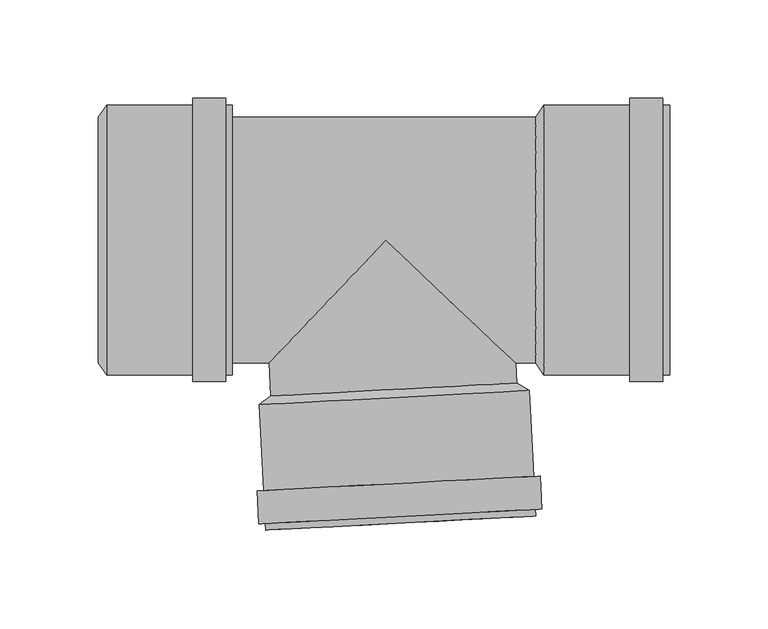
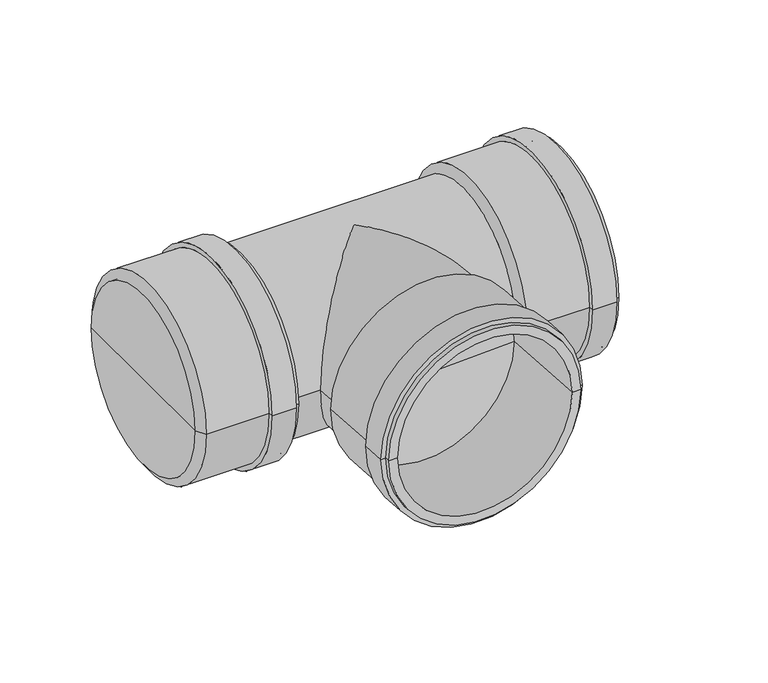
"""IFC4 building model written with IfcOpenShell, lengths in millimetres: pipe fitting geometry, pf_KGEA : pf_KGEA."""

from ifc_helpers import new_model, si_unit, frame, origin, place, context, project, spatial, polyline, circle_curve, ellipse_curve, source, transform, mapped, element, save
from ifc_brep_helpers import plane_surface, cylinder_surface, revolved_surface, advanced_brep


def pipe_fitting_a9f88fd3(model_context):
    return source(origin(), model_context, "Body", "AdvancedBrep", [
        advanced_brep(
        [(-58.4315797, -79.2667049, 0.0), (66.3971122, -72.7247103, 0.0), (72.7033298, -76.4998421, 0.0), (-64.3086424, -83.6803353, 0.0), (3.9827663, -75.9957076, 0.0), (-60.9643748, -147.4927626, 0.0), (76.0475974, -140.3122694, 0.0), (69.9559572, -140.6315187, 0.0), (-54.8727346, -147.1735132, 0.0), (-61.142317, -144.0974221, 0.0), (75.8696551, -136.9169289, 0.0), (-64.5376575, -144.2753644, 0.0), (79.2649955, -136.7389867, 0.0), (-65.4169015, -127.4983882, 0.0), (78.3857515, -119.9620105, 0.0), (-62.0215611, -127.320446, 0.0), (74.9904111, -120.1399528, 0.0), (-58.2170022, -83.361086, 0.0), (66.6116896, -76.8190914, 0.0), (4.1973437, -80.0900887, 0.0)],
        [
            (0, 1, circle_curve(frame((3.9827663, -75.9957076, 0.0), z_axis=(0.05233595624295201, -0.9986295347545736, 0.0), x_axis=(0.9986295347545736, 0.05233595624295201, 0.0)), 62.5)),
            (1, 2),
            (2, 3, circle_curve(frame((4.1973437, -80.0900887, 0.0), z_axis=(-0.05233595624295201, 0.9986295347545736, 0.0), x_axis=(0.9986295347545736, 0.05233595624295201, 0.0)), 68.6)),
            (3, 0),
            (1, 0, circle_curve(frame((3.9827663, -75.9957076, 0.0), z_axis=(0.05233595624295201, -0.9986295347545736, 0.0), x_axis=(0.9986295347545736, 0.05233595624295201, 0.0)), 62.5)),
            (3, 2, circle_curve(frame((4.1973437, -80.0900887, 0.0), z_axis=(-0.05233595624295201, 0.9986295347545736, 0.0), x_axis=(0.9986295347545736, 0.05233595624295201, 0.0)), 68.6)),
            (4, 1),
            (0, 4),
            (5, 6, circle_curve(frame((7.5416113, -143.902516, 0.0), z_axis=(0.05233595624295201, -0.9986295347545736, 0.0), x_axis=(0.9986295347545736, 0.05233595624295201, 0.0)), 68.6)),
            (6, 7),
            (7, 8, circle_curve(frame((7.5416113, -143.902516, 0.0), z_axis=(-0.05233595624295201, 0.9986295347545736, 0.0), x_axis=(0.9986295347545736, 0.05233595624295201, 0.0)), 62.5)),
            (8, 5),
            (6, 5, circle_curve(frame((7.5416113, -143.902516, 0.0), z_axis=(0.05233595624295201, -0.9986295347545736, 0.0), x_axis=(0.9986295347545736, 0.05233595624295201, 0.0)), 68.6)),
            (8, 7, circle_curve(frame((7.5416113, -143.902516, 0.0), z_axis=(-0.05233595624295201, 0.9986295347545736, 0.0), x_axis=(0.9986295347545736, 0.05233595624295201, 0.0)), 62.5)),
            (9, 10, circle_curve(frame((7.363669, -140.5071755, 0.0), z_axis=(0.05233595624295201, -0.9986295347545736, 0.0), x_axis=(0.9986295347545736, 0.05233595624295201, 0.0)), 68.6)),
            (10, 6),
            (5, 9),
            (10, 9, circle_curve(frame((7.363669, -140.5071755, 0.0), z_axis=(0.05233595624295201, -0.9986295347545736, 0.0), x_axis=(0.9986295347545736, 0.05233595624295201, 0.0)), 68.6)),
            (11, 12, circle_curve(frame((7.363669, -140.5071755, 0.0), z_axis=(0.05233595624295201, -0.9986295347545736, 0.0), x_axis=(0.9986295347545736, 0.05233595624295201, 0.0)), 72.0)),
            (12, 10),
            (9, 11),
            (12, 11, circle_curve(frame((7.363669, -140.5071755, 0.0), z_axis=(0.05233595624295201, -0.9986295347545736, 0.0), x_axis=(0.9986295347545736, 0.05233595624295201, 0.0)), 72.0)),
            (13, 14, circle_curve(frame((6.484425, -123.7301994, 0.0), z_axis=(0.05233595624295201, -0.9986295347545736, 0.0), x_axis=(0.9986295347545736, 0.05233595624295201, 0.0)), 72.0)),
            (14, 12),
            (11, 13),
            (14, 13, circle_curve(frame((6.484425, -123.7301994, 0.0), z_axis=(0.05233595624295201, -0.9986295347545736, 0.0), x_axis=(0.9986295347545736, 0.05233595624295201, 0.0)), 72.0)),
            (15, 16, circle_curve(frame((6.484425, -123.7301994, 0.0), z_axis=(0.05233595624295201, -0.9986295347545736, 0.0), x_axis=(0.9986295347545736, 0.05233595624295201, 0.0)), 68.6)),
            (16, 14),
            (13, 15),
            (16, 15, circle_curve(frame((6.484425, -123.7301994, 0.0), z_axis=(0.05233595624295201, -0.9986295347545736, 0.0), x_axis=(0.9986295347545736, 0.05233595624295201, 0.0)), 68.6)),
            (2, 16),
            (15, 3),
            (17, 18, circle_curve(frame((4.1973437, -80.0900887, 0.0), z_axis=(0.05233595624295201, -0.9986295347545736, 0.0), x_axis=(0.9986295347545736, 0.05233595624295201, 0.0)), 62.5)),
            (18, 19),
            (19, 17),
            (18, 17, circle_curve(frame((4.1973437, -80.0900887, 0.0), z_axis=(0.05233595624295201, -0.9986295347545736, 0.0), x_axis=(0.9986295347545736, 0.05233595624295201, 0.0)), 62.5)),
            (7, 18),
            (17, 8),
        ],
        [
            revolved_surface(polyline([(72.7033298, -76.4998421, 0.0), (66.3971122, -72.7247103, 0.0)]), (3.9827663, -75.9957076, 0.0), (-0.05233595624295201, 0.9986295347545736, 0.0)),
            plane_surface(frame((3.9827663, -75.9957076, 0.0), z_axis=(-0.05233595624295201, 0.9986295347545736, 0.0), x_axis=(0.9986295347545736, 0.05233595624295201, 0.0))),
            plane_surface(frame((7.5416113, -143.902516, 0.0), z_axis=(0.05233595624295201, -0.9986295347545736, 0.0), x_axis=(0.9986295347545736, 0.05233595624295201, 0.0))),
            cylinder_surface(frame((3.9827663, -75.9957076, 0.0), z_axis=(-0.05233595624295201, 0.9986295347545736, 0.0), x_axis=(0.9986295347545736, 0.05233595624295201, 0.0)), 68.6),
            plane_surface(frame((7.363669, -140.5071755, 0.0), z_axis=(0.05233595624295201, -0.9986295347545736, 0.0), x_axis=(0.9986295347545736, 0.05233595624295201, 0.0))),
            cylinder_surface(frame((3.9827663, -75.9957076, 0.0), z_axis=(-0.05233595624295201, 0.9986295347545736, 0.0), x_axis=(0.9986295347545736, 0.05233595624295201, 0.0)), 72.0),
            plane_surface(frame((6.484425, -123.7301994, 0.0), z_axis=(-0.05233595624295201, 0.9986295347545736, 0.0), x_axis=(0.9986295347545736, 0.05233595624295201, 0.0))),
            plane_surface(frame((4.1973437, -80.0900887, 0.0), z_axis=(0.05233595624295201, -0.9986295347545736, 0.0), x_axis=(0.9986295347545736, 0.05233595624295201, 0.0))),
            revolved_surface(polyline([(66.61168964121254, -76.81909139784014, 0.0), (69.95595724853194, -140.63151873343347, 0.0)]), (3.9827663, -75.9957076, 0.0), (-0.05233595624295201, 0.9986295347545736, 0.0)),
        ],
        [
            (0, [[1, 2, 3, 4]]),
            (0, [[5, -4, 6, -2]]),
            (1, [[7, -1, 8]]),
            (1, [[-8, -5, -7]]),
            (2, [[9, 10, 11, 12]]),
            (2, [[13, -12, 14, -10]]),
            (3, [[15, 16, -9, 17]]),
            (3, [[18, -17, -13, -16]]),
            (4, [[19, 20, -15, 21]]),
            (4, [[22, -21, -18, -20]]),
            (5, [[23, 24, -19, 25]]),
            (5, [[26, -25, -22, -24]]),
            (6, [[27, 28, -23, 29]]),
            (6, [[30, -29, -26, -28]]),
            (3, [[-3, 31, -27, 32]]),
            (3, [[-6, -32, -30, -31]]),
            (7, [[33, 34, 35]]),
            (7, [[36, -35, -34]]),
            (8, [[-11, 37, -33, 38]]),
            (8, [[-14, -38, -36, -37]]),
        ],
    ),
        advanced_brep(
        [(76.1, -62.5, 0.0), (76.1, 62.5, 0.0), (80.2, 68.6, 0.0), (80.2, -68.6, 0.0), (76.1, 0.0, 0.0), (144.1, -68.6, 0.0), (144.1, 68.6, 0.0), (144.1, 62.5, 0.0), (144.1, -62.5, 0.0), (140.7, -68.6, 0.0), (140.7, 68.6, 0.0), (140.7, -72.0, 0.0), (140.7, 72.0, 0.0), (123.9, -72.0, 0.0), (123.9, 72.0, 0.0), (123.9, -68.6, 0.0), (123.9, 68.6, 0.0), (80.2, -62.5, 0.0), (80.2, 62.5, 0.0), (80.2, 0.0, 0.0)],
        [
            (0, 1, circle_curve(frame((76.1, 0.0, 0.0), z_axis=(1.0, 0.0, 0.0), x_axis=(0.0, 1.0, 0.0)), 62.5)),
            (1, 2),
            (2, 3, circle_curve(frame((80.2, 0.0, 0.0), z_axis=(-1.0, 0.0, 0.0), x_axis=(0.0, 1.0, 0.0)), 68.6)),
            (3, 0),
            (1, 0, circle_curve(frame((76.1, 0.0, 0.0), z_axis=(1.0, 0.0, 0.0), x_axis=(0.0, 1.0, 0.0)), 62.5)),
            (3, 2, circle_curve(frame((80.2, 0.0, 0.0), z_axis=(-1.0, 0.0, 0.0), x_axis=(0.0, 1.0, 0.0)), 68.6)),
            (4, 1),
            (0, 4),
            (5, 6, circle_curve(frame((144.1, 0.0, 0.0), z_axis=(1.0, 0.0, 0.0), x_axis=(0.0, 1.0, 0.0)), 68.6)),
            (6, 7),
            (7, 8, circle_curve(frame((144.1, 0.0, 0.0), z_axis=(-1.0, 0.0, 0.0), x_axis=(0.0, 1.0, 0.0)), 62.5)),
            (8, 5),
            (6, 5, circle_curve(frame((144.1, 0.0, 0.0), z_axis=(1.0, 0.0, 0.0), x_axis=(0.0, 1.0, 0.0)), 68.6)),
            (8, 7, circle_curve(frame((144.1, 0.0, 0.0), z_axis=(-1.0, 0.0, 0.0), x_axis=(0.0, 1.0, 0.0)), 62.5)),
            (9, 10, circle_curve(frame((140.7, 0.0, 0.0), z_axis=(1.0, 0.0, 0.0), x_axis=(0.0, 1.0, 0.0)), 68.6)),
            (10, 6),
            (5, 9),
            (10, 9, circle_curve(frame((140.7, 0.0, 0.0), z_axis=(1.0, 0.0, 0.0), x_axis=(0.0, 1.0, 0.0)), 68.6)),
            (11, 12, circle_curve(frame((140.7, 0.0, 0.0), z_axis=(1.0, 0.0, 0.0), x_axis=(0.0, 1.0, 0.0)), 72.0)),
            (12, 10),
            (9, 11),
            (12, 11, circle_curve(frame((140.7, 0.0, 0.0), z_axis=(1.0, 0.0, 0.0), x_axis=(0.0, 1.0, 0.0)), 72.0)),
            (13, 14, circle_curve(frame((123.9, 0.0, 0.0), z_axis=(1.0, 0.0, 0.0), x_axis=(0.0, 1.0, 0.0)), 72.0)),
            (14, 12),
            (11, 13),
            (14, 13, circle_curve(frame((123.9, 0.0, 0.0), z_axis=(1.0, 0.0, 0.0), x_axis=(0.0, 1.0, 0.0)), 72.0)),
            (15, 16, circle_curve(frame((123.9, 0.0, 0.0), z_axis=(1.0, 0.0, 0.0), x_axis=(0.0, 1.0, 0.0)), 68.6)),
            (16, 14),
            (13, 15),
            (16, 15, circle_curve(frame((123.9, 0.0, 0.0), z_axis=(1.0, 0.0, 0.0), x_axis=(0.0, 1.0, 0.0)), 68.6)),
            (2, 16),
            (15, 3),
            (17, 18, circle_curve(frame((80.2, 0.0, 0.0), z_axis=(1.0, 0.0, 0.0), x_axis=(0.0, 1.0, 0.0)), 62.5)),
            (18, 19),
            (19, 17),
            (18, 17, circle_curve(frame((80.2, 0.0, 0.0), z_axis=(1.0, 0.0, 0.0), x_axis=(0.0, 1.0, 0.0)), 62.5)),
            (7, 18),
            (17, 8),
        ],
        [
            revolved_surface(polyline([(80.2, 68.6, 0.0), (76.1, 62.5, 0.0)]), (76.1, 0.0, 0.0), (-1.0, 0.0, 0.0)),
            plane_surface(frame((76.1, 0.0, 0.0), z_axis=(-1.0, 0.0, 0.0), x_axis=(0.0, 1.0, 0.0))),
            plane_surface(frame((144.1, 0.0, 0.0), z_axis=(1.0, 0.0, 0.0), x_axis=(0.0, 1.0, 0.0))),
            cylinder_surface(frame((76.1, 0.0, 0.0), z_axis=(-1.0, 0.0, 0.0), x_axis=(0.0, 1.0, 0.0)), 68.6),
            plane_surface(frame((140.7, 0.0, 0.0), z_axis=(1.0, 0.0, 0.0), x_axis=(0.0, 1.0, 0.0))),
            cylinder_surface(frame((76.1, 0.0, 0.0), z_axis=(-1.0, 0.0, 0.0), x_axis=(0.0, 1.0, 0.0)), 72.0),
            plane_surface(frame((123.9, 0.0, 0.0), z_axis=(-1.0, 0.0, 0.0), x_axis=(0.0, 1.0, 0.0))),
            plane_surface(frame((80.2, 0.0, 0.0), z_axis=(1.0, 0.0, 0.0), x_axis=(0.0, 1.0, 0.0))),
            revolved_surface(polyline([(80.2, 62.5, 0.0), (144.1, 62.5, 0.0)]), (76.1, 0.0, 0.0), (-1.0, 0.0, 0.0)),
        ],
        [
            (0, [[1, 2, 3, 4]]),
            (0, [[5, -4, 6, -2]]),
            (1, [[7, -1, 8]]),
            (1, [[-8, -5, -7]]),
            (2, [[9, 10, 11, 12]]),
            (2, [[13, -12, 14, -10]]),
            (3, [[15, 16, -9, 17]]),
            (3, [[18, -17, -13, -16]]),
            (4, [[19, 20, -15, 21]]),
            (4, [[22, -21, -18, -20]]),
            (5, [[23, 24, -19, 25]]),
            (5, [[26, -25, -22, -24]]),
            (6, [[27, 28, -23, 29]]),
            (6, [[30, -29, -26, -28]]),
            (3, [[-3, 31, -27, 32]]),
            (3, [[-6, -32, -30, -31]]),
            (7, [[33, 34, 35]]),
            (7, [[36, -35, -34]]),
            (8, [[-11, 37, -33, 38]]),
            (8, [[-14, -38, -36, -37]]),
        ],
    ),
        advanced_brep(
        [(-146.0, -62.5, 0.0), (-146.0, 62.5, 0.0), (-141.9, 68.6, 0.0), (-141.9, -68.6, 0.0), (-146.0, 0.0, 0.0), (-78.0, -68.6, 0.0), (-78.0, 68.6, 0.0), (-78.0, 62.5, 0.0), (-78.0, -62.5, 0.0), (-81.4, -68.6, 0.0), (-81.4, 68.6, 0.0), (-81.4, -72.0, 0.0), (-81.4, 72.0, 0.0), (-98.2, -72.0, 0.0), (-98.2, 72.0, 0.0), (-98.2, -68.6, 0.0), (-98.2, 68.6, 0.0), (-141.9, -62.5, 0.0), (-141.9, 62.5, 0.0), (-141.9, 0.0, 0.0)],
        [
            (0, 1, circle_curve(frame((-146.0, 0.0, 0.0), z_axis=(1.0, 0.0, 0.0), x_axis=(0.0, 1.0, 0.0)), 62.5)),
            (1, 2),
            (2, 3, circle_curve(frame((-141.9, 0.0, 0.0), z_axis=(-1.0, 0.0, 0.0), x_axis=(0.0, 1.0, 0.0)), 68.6)),
            (3, 0),
            (1, 0, circle_curve(frame((-146.0, 0.0, 0.0), z_axis=(1.0, 0.0, 0.0), x_axis=(0.0, 1.0, 0.0)), 62.5)),
            (3, 2, circle_curve(frame((-141.9, 0.0, 0.0), z_axis=(-1.0, 0.0, 0.0), x_axis=(0.0, 1.0, 0.0)), 68.6)),
            (4, 1),
            (0, 4),
            (5, 6, circle_curve(frame((-78.0, 0.0, 0.0), z_axis=(1.0, 0.0, 0.0), x_axis=(0.0, 1.0, 0.0)), 68.6)),
            (6, 7),
            (7, 8, circle_curve(frame((-78.0, 0.0, 0.0), z_axis=(-1.0, 0.0, 0.0), x_axis=(0.0, 1.0, 0.0)), 62.5)),
            (8, 5),
            (6, 5, circle_curve(frame((-78.0, 0.0, 0.0), z_axis=(1.0, 0.0, 0.0), x_axis=(0.0, 1.0, 0.0)), 68.6)),
            (8, 7, circle_curve(frame((-78.0, 0.0, 0.0), z_axis=(-1.0, 0.0, 0.0), x_axis=(0.0, 1.0, 0.0)), 62.5)),
            (9, 10, circle_curve(frame((-81.4, 0.0, 0.0), z_axis=(1.0, 0.0, 0.0), x_axis=(0.0, 1.0, 0.0)), 68.6)),
            (10, 6),
            (5, 9),
            (10, 9, circle_curve(frame((-81.4, 0.0, 0.0), z_axis=(1.0, 0.0, 0.0), x_axis=(0.0, 1.0, 0.0)), 68.6)),
            (11, 12, circle_curve(frame((-81.4, 0.0, 0.0), z_axis=(1.0, 0.0, 0.0), x_axis=(0.0, 1.0, 0.0)), 72.0)),
            (12, 10),
            (9, 11),
            (12, 11, circle_curve(frame((-81.4, 0.0, 0.0), z_axis=(1.0, 0.0, 0.0), x_axis=(0.0, 1.0, 0.0)), 72.0)),
            (13, 14, circle_curve(frame((-98.2, 0.0, 0.0), z_axis=(1.0, 0.0, 0.0), x_axis=(0.0, 1.0, 0.0)), 72.0)),
            (14, 12),
            (11, 13),
            (14, 13, circle_curve(frame((-98.2, 0.0, 0.0), z_axis=(1.0, 0.0, 0.0), x_axis=(0.0, 1.0, 0.0)), 72.0)),
            (15, 16, circle_curve(frame((-98.2, 0.0, 0.0), z_axis=(1.0, 0.0, 0.0), x_axis=(0.0, 1.0, 0.0)), 68.6)),
            (16, 14),
            (13, 15),
            (16, 15, circle_curve(frame((-98.2, 0.0, 0.0), z_axis=(1.0, 0.0, 0.0), x_axis=(0.0, 1.0, 0.0)), 68.6)),
            (2, 16),
            (15, 3),
            (17, 18, circle_curve(frame((-141.9, 0.0, 0.0), z_axis=(1.0, 0.0, 0.0), x_axis=(0.0, 1.0, 0.0)), 62.5)),
            (18, 19),
            (19, 17),
            (18, 17, circle_curve(frame((-141.9, 0.0, 0.0), z_axis=(1.0, 0.0, 0.0), x_axis=(0.0, 1.0, 0.0)), 62.5)),
            (7, 18),
            (17, 8),
        ],
        [
            revolved_surface(polyline([(-141.9, 68.6, 0.0), (-146.0, 62.5, 0.0)]), (-146.0, 0.0, 0.0), (-1.0, 0.0, 0.0)),
            plane_surface(frame((-146.0, 0.0, 0.0), z_axis=(-1.0, 0.0, 0.0), x_axis=(0.0, 1.0, 0.0))),
            plane_surface(frame((-78.0, 0.0, 0.0), z_axis=(1.0, 0.0, 0.0), x_axis=(0.0, 1.0, 0.0))),
            cylinder_surface(frame((-146.0, 0.0, 0.0), z_axis=(-1.0, 0.0, 0.0), x_axis=(0.0, 1.0, 0.0)), 68.6),
            plane_surface(frame((-81.4, 0.0, 0.0), z_axis=(1.0, 0.0, 0.0), x_axis=(0.0, 1.0, 0.0))),
            cylinder_surface(frame((-146.0, 0.0, 0.0), z_axis=(-1.0, 0.0, 0.0), x_axis=(0.0, 1.0, 0.0)), 72.0),
            plane_surface(frame((-98.2, 0.0, 0.0), z_axis=(-1.0, 0.0, 0.0), x_axis=(0.0, 1.0, 0.0))),
            plane_surface(frame((-141.9, 0.0, 0.0), z_axis=(1.0, 0.0, 0.0), x_axis=(0.0, 1.0, 0.0))),
            revolved_surface(polyline([(-141.9, 62.5, 0.0), (-78.0, 62.5, 0.0)]), (-146.0, 0.0, 0.0), (-1.0, 0.0, 0.0)),
        ],
        [
            (0, [[1, 2, 3, 4]]),
            (0, [[5, -4, 6, -2]]),
            (1, [[7, -1, 8]]),
            (1, [[-8, -5, -7]]),
            (2, [[9, 10, 11, 12]]),
            (2, [[13, -12, 14, -10]]),
            (3, [[15, 16, -9, 17]]),
            (3, [[18, -17, -13, -16]]),
            (4, [[19, 20, -15, 21]]),
            (4, [[22, -21, -18, -20]]),
            (5, [[23, 24, -19, 25]]),
            (5, [[26, -25, -22, -24]]),
            (6, [[27, 28, -23, 29]]),
            (6, [[30, -29, -26, -28]]),
            (3, [[-3, 31, -27, 32]]),
            (3, [[-6, -32, -30, -31]]),
            (7, [[33, 34, 35]]),
            (7, [[36, -35, -34]]),
            (8, [[-11, 37, -33, 38]]),
            (8, [[-14, -38, -36, -37]]),
        ],
    ),
        advanced_brep(
        [(-141.9, -62.5, 0.0), (-141.9, 62.5, 0.0), (76.1, -62.5, 0.0), (76.1, 62.5, 0.0), (-59.3102854, -62.5, 0.0), (0.0, 0.0, 62.5), (65.8612578, -62.5, 0.0), (0.0, 0.0, -62.5), (-58.4315797, -79.2667049, 0.0), (66.3971122, -72.7247103, 0.0)],
        [
            (0, 1, circle_curve(frame((-141.9, 0.0, 0.0), z_axis=(-1.0, 0.0, 0.0), x_axis=(0.0, 1.0, 0.0)), 62.5)),
            (1, 0, circle_curve(frame((-141.9, 0.0, 0.0), z_axis=(-1.0, 0.0, 0.0), x_axis=(0.0, 1.0, 0.0)), 62.5)),
            (2, 3, circle_curve(frame((76.1, 0.0, 0.0), z_axis=(1.0, 0.0, 0.0), x_axis=(0.0, 1.0, 0.0)), 62.5)),
            (3, 2, circle_curve(frame((76.1, 0.0, 0.0), z_axis=(1.0, 0.0, 0.0), x_axis=(0.0, 1.0, 0.0)), 62.5)),
            (0, 4),
            (4, 5, ellipse_curve(frame((0.0, 0.0, 0.0), z_axis=(-0.7253743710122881, 0.6883545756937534, 0.0), x_axis=(-0.6883545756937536, -0.725374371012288, 0.0)), 86.1624045, 62.5)),
            (5, 6, ellipse_curve(frame((0.0, 0.0, 0.0), z_axis=(0.6883545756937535, 0.7253743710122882, 0.0), x_axis=(-0.7253743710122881, 0.6883545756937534, 0.0)), 90.7962295, 62.5)),
            (6, 2),
            (3, 1),
            (6, 7, ellipse_curve(frame((0.0, 0.0, 0.0), z_axis=(0.6883545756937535, 0.7253743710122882, 0.0), x_axis=(-0.7253743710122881, 0.6883545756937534, 0.0)), 90.7962295, 62.5)),
            (7, 4, ellipse_curve(frame((0.0, 0.0, 0.0), z_axis=(-0.7253743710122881, 0.6883545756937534, 0.0), x_axis=(-0.6883545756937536, -0.725374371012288, 0.0)), 86.1624045, 62.5)),
            (8, 9, circle_curve(frame((3.9827663, -75.9957076, 0.0), z_axis=(0.05233595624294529, -0.9986295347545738, 0.0), x_axis=(0.9986295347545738, 0.05233595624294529, 0.0)), 62.5)),
            (9, 8, circle_curve(frame((3.9827663, -75.9957076, 0.0), z_axis=(0.05233595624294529, -0.9986295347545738, 0.0), x_axis=(0.9986295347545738, 0.05233595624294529, 0.0)), 62.5)),
            (9, 6),
            (4, 8),
        ],
        [
            plane_surface(frame((-141.9, 0.0, 0.0), z_axis=(-1.0, 0.0, 0.0), x_axis=(0.0, 0.0, 1.0))),
            plane_surface(frame((76.1, 0.0, 0.0), z_axis=(1.0, 0.0, 0.0), x_axis=(0.0, 0.0, 1.0))),
            cylinder_surface(frame((-141.9, 0.0, 0.0), z_axis=(-1.0, 0.0, 0.0), x_axis=(0.0, 1.0, 0.0)), 62.5),
            plane_surface(frame((3.9827663, -75.9957076, 0.0), z_axis=(0.05233595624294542, -0.9986295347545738, 0.0), x_axis=(0.0, 0.0, 1.0))),
            cylinder_surface(frame((0.0, 0.0, 0.0), z_axis=(-0.05233595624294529, 0.9986295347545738, 0.0), x_axis=(0.9986295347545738, 0.05233595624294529, 0.0)), 62.5),
        ],
        [
            (0, [[1, 2]]),
            (1, [[3, 4]]),
            (2, [[-1, 5, 6, 7, 8, -4, 9]]),
            (2, [[-2, -9, -3, -8, 10, 11, -5]]),
            (3, [[12, 13]]),
            (4, [[-13, 14, -7, -6, 15]]),
            (4, [[-12, -15, -11, -10, -14]]),
        ],
    ),
    ])


if __name__ == "__main__":
    model = new_model("IFC4")
    model_context = context("Model", 3, world=origin())
    ifc_project = project(units=[si_unit("LENGTHUNIT", "METRE", prefix="MILLI")], contexts=[model_context])
    site = spatial("IfcSite", under=ifc_project)
    building = spatial("IfcBuilding", under=site)
    placement = place(None, origin())
    pipe_fitting_shape = pipe_fitting_a9f88fd3(model_context)
    element("IfcPipeFitting", 1, ObjectType="pf_KGEA : pf_KGEA", at=placement, inside=building, context=model_context, shape_type="MappedRepresentation", body=[
        mapped(pipe_fitting_shape, transform((0.0, 0.0, 0.0), x_axis=(1.0, 0.0, 0.0), y_axis=(0.0, 1.0, 0.0), z_axis=(0.0, 0.0, 1.0))),
    ])
    save(model, "model.ifc")
